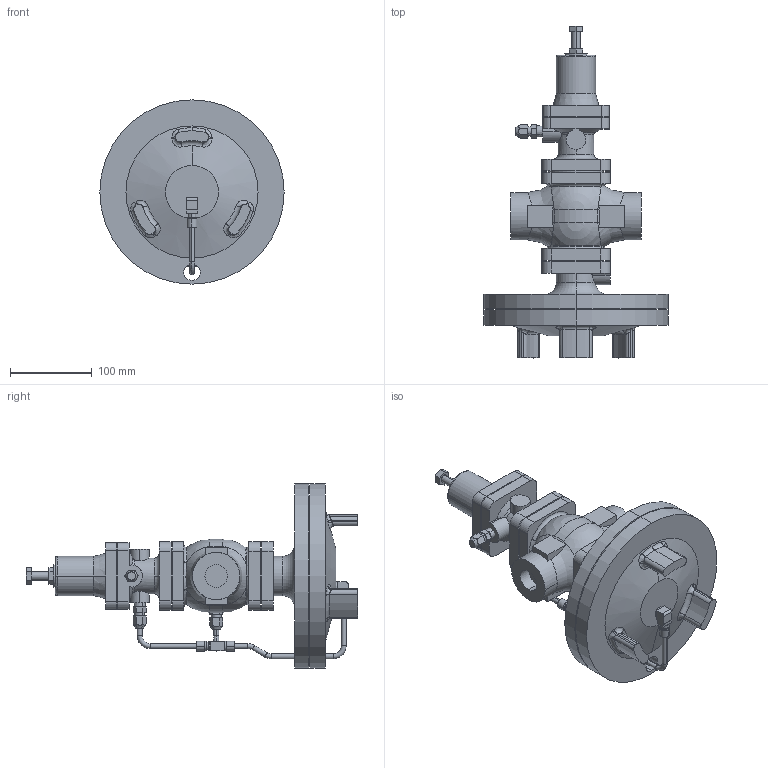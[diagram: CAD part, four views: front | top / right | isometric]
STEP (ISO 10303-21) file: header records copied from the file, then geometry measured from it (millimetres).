
FILE_DESCRIPTION (( 'STEP AP203' ), '1' );
FILE_NAME ('GPR-2000 JIS Rc 25A.STEP', '2025-12-05T02:14:41', ( '' ), ( '' ), 'SwSTEP 2.0', 'SolidWorks 2024', '' );
FILE_SCHEMA (( 'CONFIG_CONTROL_DESIGN' ));
Length unit declared in the file: millimetre
Products named in the file (8): Tee; GPR-2000 Body Assy EN 25A; Pipe A 15-25A; Pipe C 25A; Joint; Elbow; Pipe B 25A; GPR-2000 JIS Rc 25A
Assembly tree (9 placements, depth 2):
  GPR-2000 JIS Rc 25A
    GPR-2000 Body Assy EN 25A
    Tee
    Pipe B 25A
    Joint  x3
    Pipe C 25A
    Elbow
    Pipe A 15-25A
Bounding box: 226 x 407.1 x 226 mm (x, y, z)
Volume: 3238737.1 mm3; surface area: 312403 mm2
Topology: 9 solids, 9 shells, 432 faces, 1080 edges, 705 vertices
Faces by surface type: plane 192, cylinder 151, torus 30, bspline 28, cone 27, sphere 4
Entity records: 15748 total; most frequent: CARTESIAN_POINT 5805, DIRECTION 1914, ORIENTED_EDGE 1876, EDGE_CURVE 938, AXIS2_PLACEMENT_3D 742, VERTEX_POINT 605, VECTOR 430, LINE 430
